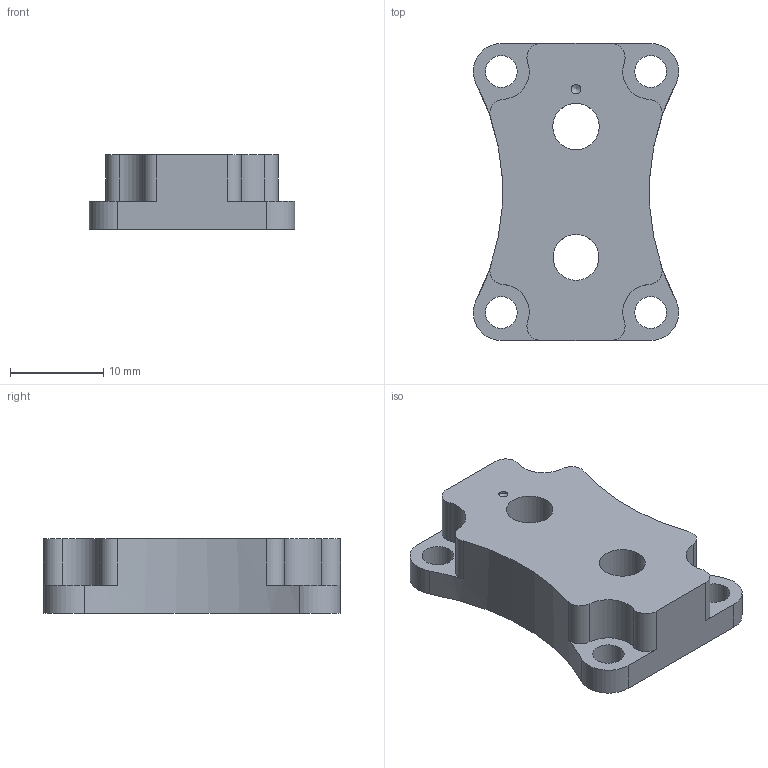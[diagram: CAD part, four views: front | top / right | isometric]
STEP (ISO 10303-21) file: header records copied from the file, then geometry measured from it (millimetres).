
FILE_DESCRIPTION(/* description */ ('TripodAdapter'),/* implementation_level */ '2;1');
FILE_NAME(/* name */ 'KSM_314-25-00-00-05-a_TripodAdapter 16x25,8.stp',/* time_stamp */ '2026-06-21T20:23:29+02:00',/* author */ ('khw'),/* organization */ ('TIS/ Germany'),/* preprocessor_version */ 'ST-DEVELOPER v20',/* originating_system */ 'Autodesk Inventor 2025',/* authorisation */ '6767,5 mm^3');
FILE_SCHEMA (('AUTOMOTIVE_DESIGN { 1 0 10303 214 3 1 1 }'));
Length unit declared in the file: millimetre
Products named in the file (1): KSM_314-25-00-00-05-a_TripodAdapter 16x25,8
Bounding box: 22 x 31.8 x 8 mm (x, y, z)
Volume: 3654.8 mm3; surface area: 2178 mm2
Topology: 1 solids, 1 shells, 34 faces, 95 edges, 63 vertices
Faces by surface type: cylinder 25, plane 8, cone 1
Full cylindrical faces by diameter (mm): 1 x1, 3.4 x4, 4.917 x1, 4.978 x1
Entity records: 1187 total; most frequent: DIRECTION 218, CARTESIAN_POINT 192, ORIENTED_EDGE 188, EDGE_CURVE 94, AXIS2_PLACEMENT_3D 89, VERTEX_POINT 63, CIRCLE 54, EDGE_LOOP 47
